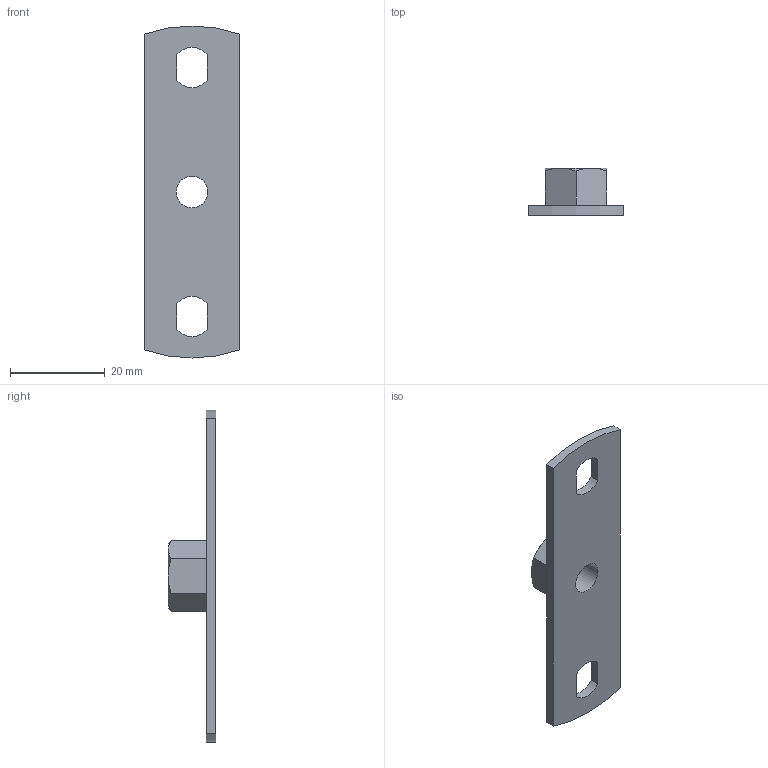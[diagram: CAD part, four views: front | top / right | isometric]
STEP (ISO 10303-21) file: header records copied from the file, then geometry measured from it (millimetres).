
FILE_DESCRIPTION(/* description */ (''),/* implementation_level */ '2;1');
FILE_NAME(/* name */ 'C:\Users\cad\Desktop\Zeichnungen neu von Ralph\Grundplatten\R-378\3D_R378-M8_173873020.stp',/* time_stamp */ '2021-07-27T11:19:07+02:00',/* author */ ('cad'),/* organization */ (''),/* preprocessor_version */ 'ST-DEVELOPER v18.1',/* originating_system */ 'Autodesk Inventor 2022',/* authorisation */ '');
FILE_SCHEMA (('AUTOMOTIVE_DESIGN { 1 0 10303 214 3 1 1 }'));
Length unit declared in the file: millimetre
Products named in the file (1): 3D_R378-M8_173873020
Bounding box: 20 x 10 x 70 mm (x, y, z)
Volume: 3367.8 mm3; surface area: 3490.5 mm2
Topology: 1 solids, 1 shells, 29 faces, 72 edges, 46 vertices
Faces by surface type: plane 15, cone 7, cylinder 7
Full cylindrical faces by diameter (mm): 6.647 x1
Entity records: 901 total; most frequent: CARTESIAN_POINT 172, ORIENTED_EDGE 144, DIRECTION 142, EDGE_CURVE 72, AXIS2_PLACEMENT_3D 52, VERTEX_POINT 46, LINE 38, VECTOR 38
